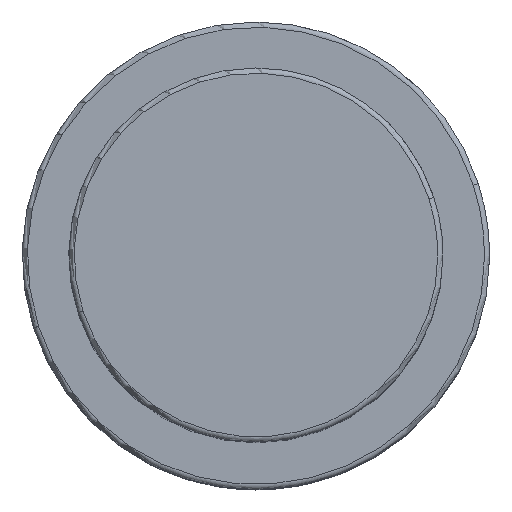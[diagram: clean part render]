
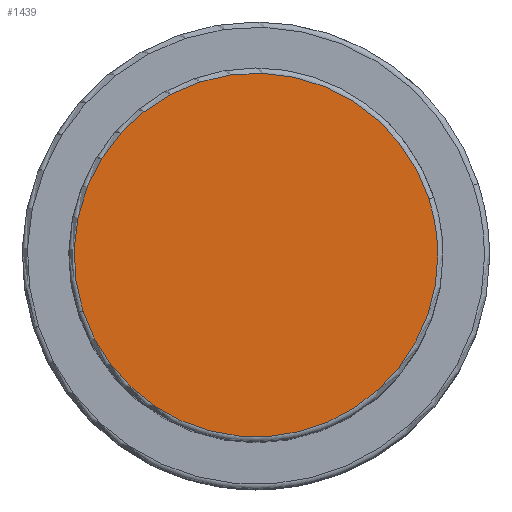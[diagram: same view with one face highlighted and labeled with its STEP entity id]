
A CAD part, top view. The second image highlights one B-rep face of the part: STEP entity #1439.
In plain terms, the highlighted planar face has unit normal (0, 0, 1).
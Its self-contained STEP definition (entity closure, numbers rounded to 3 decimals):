
#1405=CARTESIAN_POINT('',(17.5,0.0,68.0));
#1406=VERTEX_POINT('',#1405);
#1407=CARTESIAN_POINT('',(16.643,5.408,68.0));
#1408=VERTEX_POINT('',#1407);
#1409=CARTESIAN_POINT('',(0.0,0.0,68.0));
#1410=DIRECTION('',(0.0,0.0,1.0));
#1411=DIRECTION('',(1.0,0.0,0.0));
#1412=AXIS2_PLACEMENT_3D('',#1409,#1410,#1411);
#1413=CIRCLE('',#1412,17.5);
#1414=EDGE_CURVE('no 1605',#1406,#1408,#1413,.T.);
#1415=ORIENTED_EDGE('',*,*,#1414,.T.);
#1416=CARTESIAN_POINT('',(-16.643,-5.408,68.0));
#1417=VERTEX_POINT('',#1416);
#1418=CARTESIAN_POINT('',(0.0,0.0,68.0));
#1419=DIRECTION('',(0.0,0.0,1.0));
#1420=DIRECTION('',(1.0,0.0,0.0));
#1421=AXIS2_PLACEMENT_3D('',#1418,#1419,#1420);
#1422=CIRCLE('',#1421,17.5);
#1423=EDGE_CURVE('no 1611',#1408,#1417,#1422,.T.);
#1424=ORIENTED_EDGE('',*,*,#1423,.T.);
#1425=CARTESIAN_POINT('',(0.0,0.0,68.0));
#1426=DIRECTION('',(0.0,0.0,1.0));
#1427=DIRECTION('',(1.0,0.0,0.0));
#1428=AXIS2_PLACEMENT_3D('',#1425,#1426,#1427);
#1429=CIRCLE('',#1428,17.5);
#1430=EDGE_CURVE('no 1615',#1417,#1406,#1429,.T.);
#1431=ORIENTED_EDGE('',*,*,#1430,.T.);
#1432=EDGE_LOOP('',(#1415,#1424,#1431));
#1433=FACE_OUTER_BOUND('',#1432,.T.);
#1434=CARTESIAN_POINT('',(0.0,0.0,68.0));
#1435=DIRECTION('',(0.0,0.0,1.0));
#1436=DIRECTION('',(1.0,0.0,0.0));
#1437=AXIS2_PLACEMENT_3D('',#1434,#1435,#1436);
#1438=PLANE('',#1437);
#1439=ADVANCED_FACE('no 1596',(#1433),#1438,.T.);
